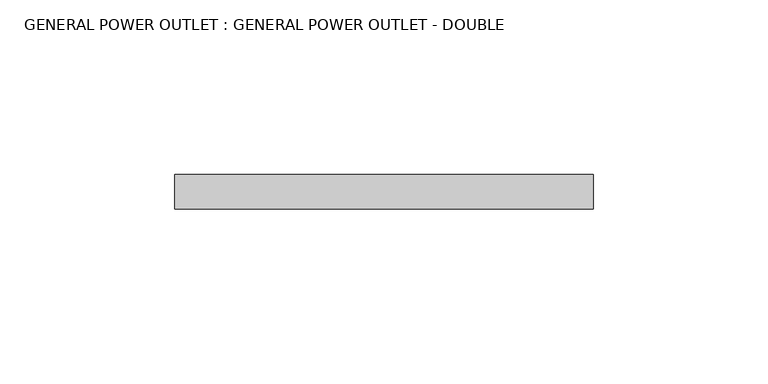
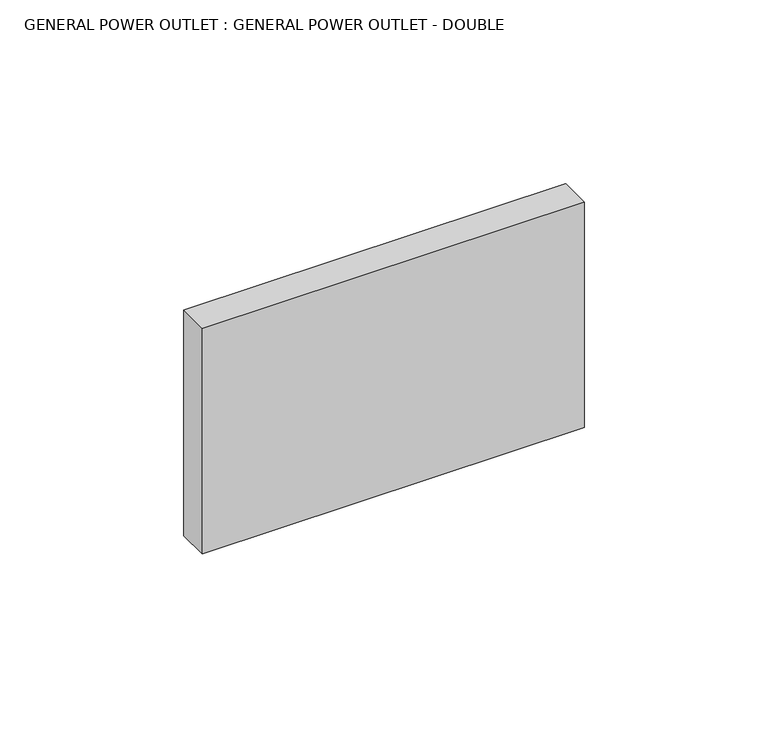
"""IFC4 building model written with IfcOpenShell, lengths in millimetres: proxy geometry, GENERAL POWER OUTLET : GENERAL POWER OUTLET - DOUBLE."""

from ifc_helpers import new_model, si_unit, frame, origin, place, context, project, spatial, polyline, outline, extrude, source, transform, mapped, element, save


def general_power_outlet_general_power_outlet_double_3df6d524(model_context):
    return source(origin(), model_context, "Body", "SweptSolid", [
        extrude(outline(polyline([(60.0, -10.0), (-60.0, -10.0), (-60.0, 0.0), (60.0, 0.0), (60.0, -10.0)])), frame((0.0, 0.0, 1062.5), z_axis=(0.0, 0.0, 1.0), x_axis=(1.0, 0.0, 0.0)), (0.0, 0.0, 1.0), 75.0),
    ])


if __name__ == "__main__":
    model = new_model("IFC4")
    model_context = context("Model", 3, world=origin())
    ifc_project = project(units=[si_unit("LENGTHUNIT", "METRE", prefix="MILLI")], contexts=[model_context])
    site = spatial("IfcSite", under=ifc_project)
    building = spatial("IfcBuilding", under=site)
    placement = place(None, origin())
    general_power_outlet_general_power_outlet_double_shape = general_power_outlet_general_power_outlet_double_3df6d524(model_context)
    element("IfcBuildingElementProxy", 1, Name="GENERAL POWER OUTLET : GENERAL POWER OUTLET - DOUBLE", ObjectType="GENERAL POWER OUTLET : GENERAL POWER OUTLET - DOUBLE", at=placement, inside=building, context=model_context, shape_type="MappedRepresentation", body=[
        mapped(general_power_outlet_general_power_outlet_double_shape, transform((0.0, 0.0, 0.0), x_axis=(1.0, 0.0, 0.0), y_axis=(0.0, 1.0, 0.0), z_axis=(0.0, 0.0, 1.0))),
    ])
    save(model, "model.ifc")
